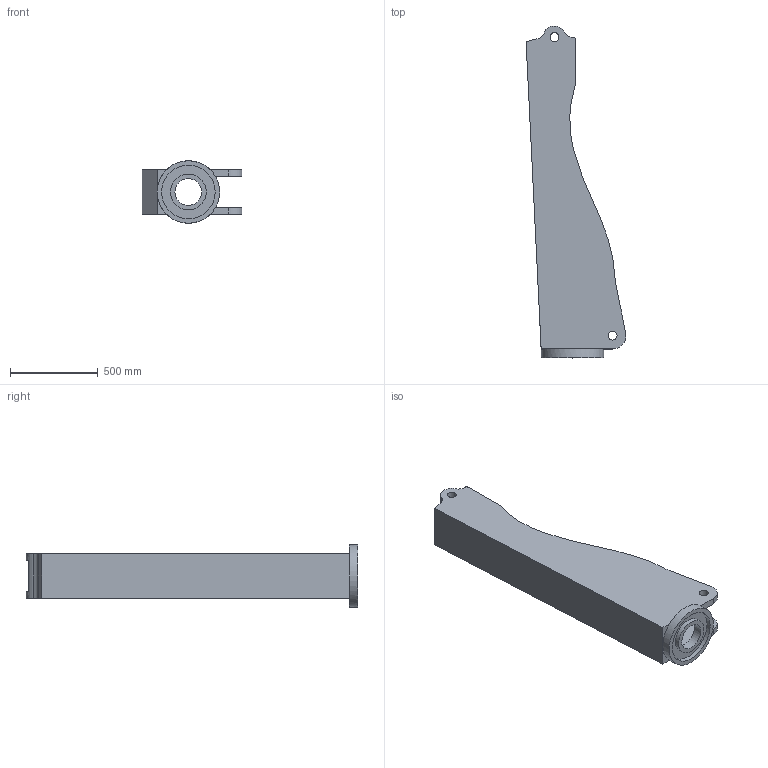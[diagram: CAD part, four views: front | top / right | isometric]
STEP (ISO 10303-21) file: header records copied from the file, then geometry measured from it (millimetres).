
FILE_DESCRIPTION(/* description */ ('PART DESCRIPTION (LINE 1)'),/* implementation_level */ '2;1');
FILE_NAME(/* name */ 'Link1.stp',/* time_stamp */ '2024-04-02T17:23:31+02:00',/* author */ ('JL'),/* organization */ (''),/* preprocessor_version */ 'ST-DEVELOPER v19.2',/* originating_system */ 'Autodesk Inventor 2023',/* authorisation */ '');
FILE_SCHEMA (('AUTOMOTIVE_DESIGN { 1 0 10303 214 3 1 1 }'));
Length unit declared in the file: inch
Products named in the file (1): Link1
Bounding box: 568.32 x 1888.9 x 355.6 mm (x, y, z)
Volume: 64492618.5 mm3; surface area: 3544720.7 mm2
Topology: 1 solids, 1 shells, 47 faces, 121 edges, 78 vertices
Faces by surface type: plane 27, cylinder 18, bspline 2
Full cylindrical faces by diameter (mm): 50.8 x4, 152.4 x1, 203.2 x1, 304.8 x1, 355.6 x1
Entity records: 1525 total; most frequent: CARTESIAN_POINT 274, DIRECTION 255, ORIENTED_EDGE 242, EDGE_CURVE 121, AXIS2_PLACEMENT_3D 91, VERTEX_POINT 78, LINE 73, VECTOR 73
